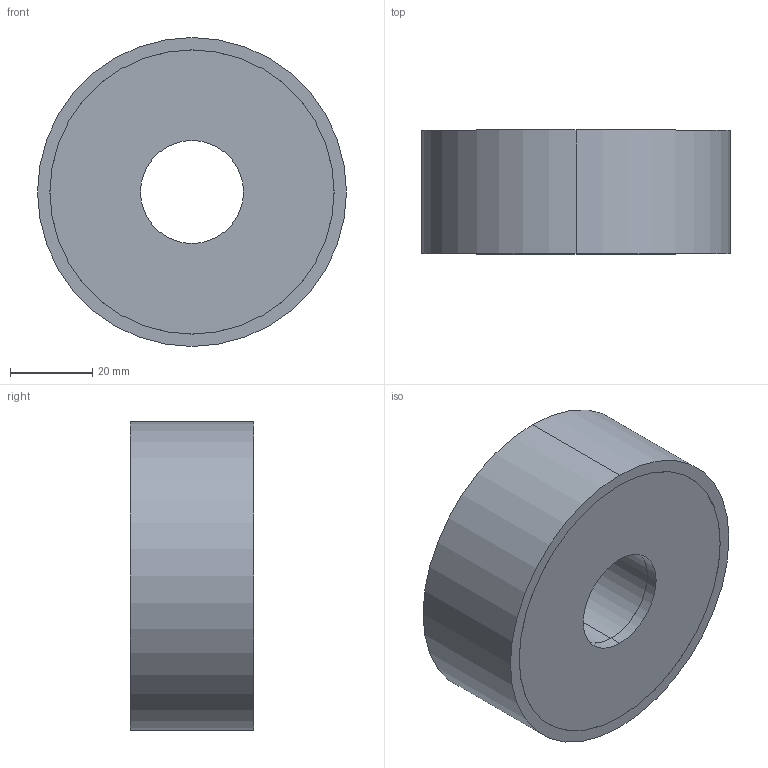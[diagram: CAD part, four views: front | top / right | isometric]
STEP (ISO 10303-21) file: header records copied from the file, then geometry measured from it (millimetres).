
FILE_DESCRIPTION (( 'STEP AP214' ), '1' );
FILE_NAME ('351-75-30-25-DD-40.step', '2025-07-23T10:15:21', ( '' ), ( '' ), 'SwSTEP 2.0', 'SolidWorks 2022', '' );
FILE_SCHEMA (( 'AUTOMOTIVE_DESIGN' ));
Length unit declared in the file: millimetre
Products named in the file (1): 351-75-30-25-DD-40
Bounding box: 75 x 30 x 75 mm (x, y, z)
Volume: 117809.7 mm3; surface area: 17290.6 mm2
Topology: 1 solids, 1 shells, 30 faces, 60 edges, 40 vertices
Faces by surface type: cylinder 20, plane 10
Entity records: 919 total; most frequent: DIRECTION 162, CARTESIAN_POINT 131, ORIENTED_EDGE 120, AXIS2_PLACEMENT_3D 71, EDGE_CURVE 60, EDGE_LOOP 40, VERTEX_POINT 40, CIRCLE 40
